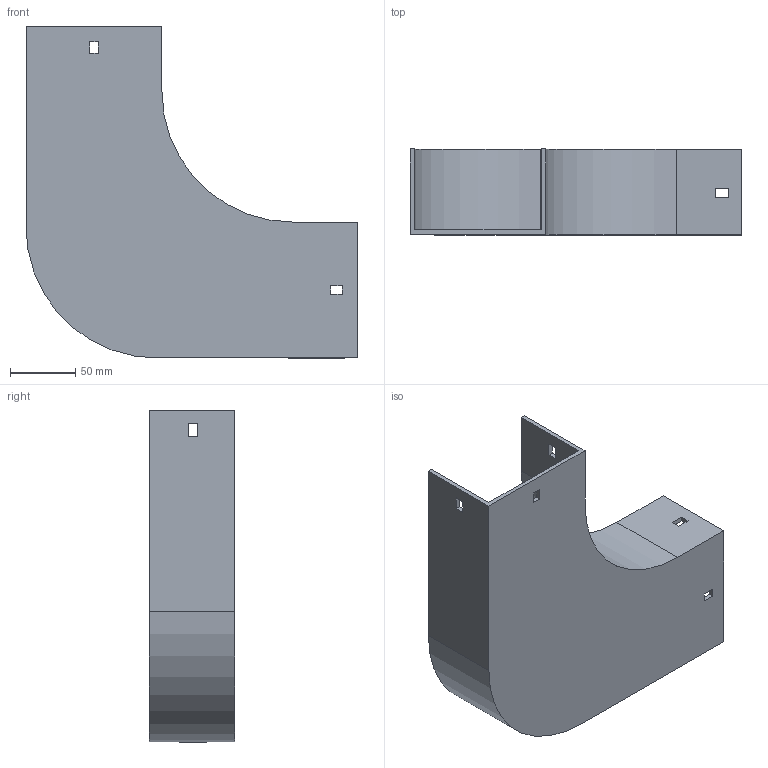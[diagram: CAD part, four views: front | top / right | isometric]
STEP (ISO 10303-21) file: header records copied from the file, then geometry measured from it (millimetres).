
FILE_DESCRIPTION (( 'STEP AP214' ), '1' );
FILE_NAME ('10B1H100.step', '2025-02-21T09:41:00', ( '' ), ( '' ), 'SwSTEP 2.0', 'SolidWorks 2023', '' );
FILE_SCHEMA (( 'AUTOMOTIVE_DESIGN' ));
Length unit declared in the file: millimetre
Products named in the file (1): 10B1H100
Bounding box: 254 x 65.5 x 254 mm (x, y, z)
Volume: 302375.1 mm3; surface area: 177602.3 mm2
Topology: 1 solids, 1 shells, 42 faces, 120 edges, 80 vertices
Faces by surface type: plane 38, cylinder 4
Entity records: 1399 total; most frequent: CARTESIAN_POINT 243, ORIENTED_EDGE 240, DIRECTION 214, EDGE_CURVE 120, LINE 112, VECTOR 112, VERTEX_POINT 80, EDGE_LOOP 54
